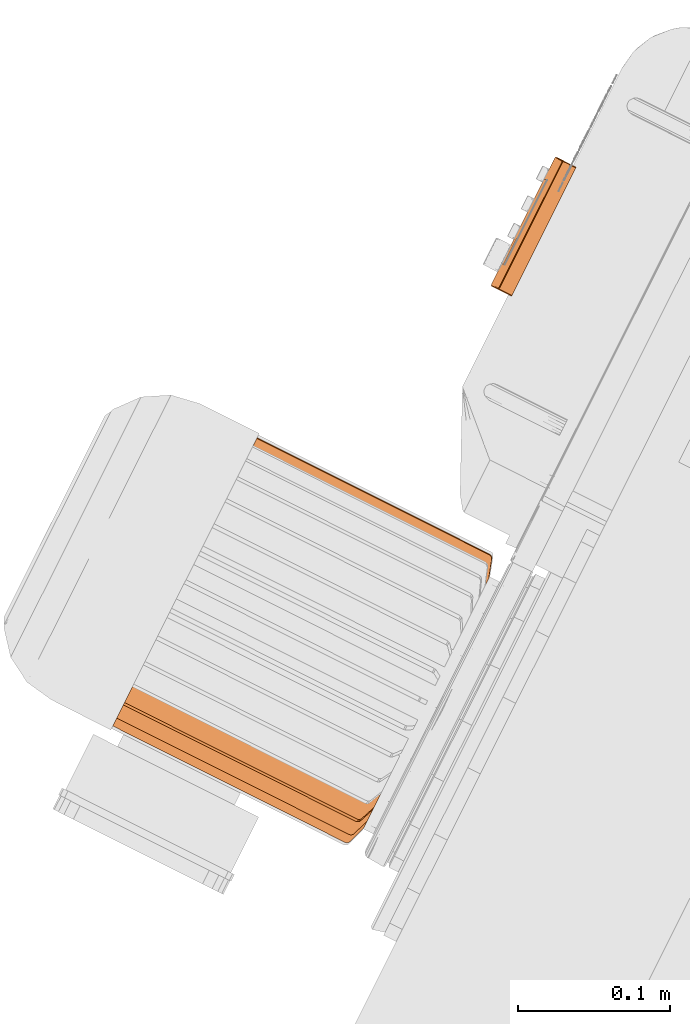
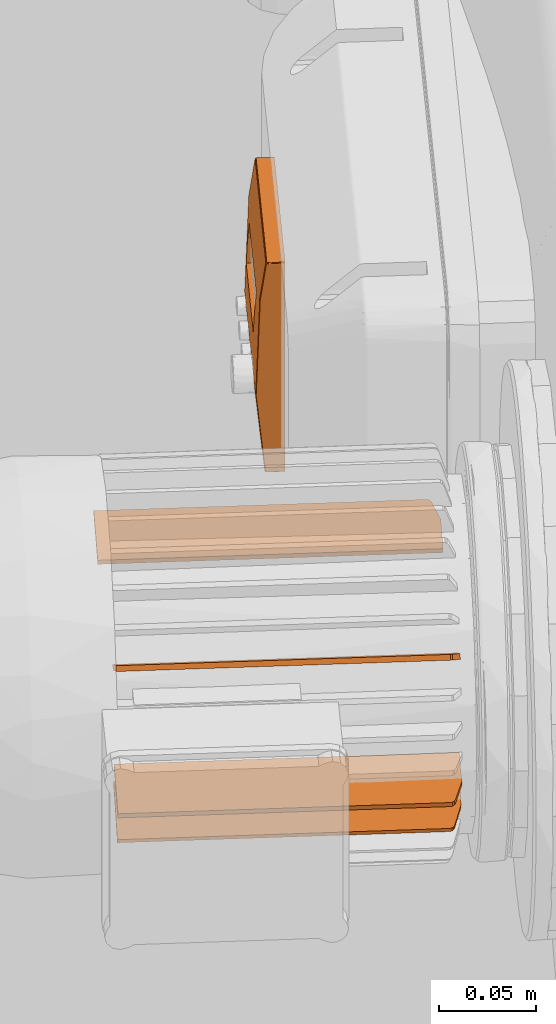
# One storey, part 178 of 206: 5 proxies.
"""IFC2X3 building model written with IfcOpenShell, lengths in metres."""

from ifc_helpers import new_model, si_unit, derived_unit, direction, frame, origin, place, context, subcontext, project, spatial, face_set, faceted_brep, surface_model, source, transform, mapped, material, type_object, type_shapes, element, save


model = new_model("IFC2X3")

# Units and contexts
model_context = context("Model", 3, precision=5.2338327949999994e-05, world=origin(), true_north=direction((0.0, 1.0)))
body_context = subcontext(model_context, "Body", "Model", "MODEL_VIEW")
ifc_project = project(units=[si_unit("LENGTHUNIT", "METRE"), si_unit("AREAUNIT", "SQUARE_METRE"), si_unit("VOLUMEUNIT", "CUBIC_METRE"), si_unit("MASSUNIT", "GRAM", prefix="KILO"), si_unit("PLANEANGLEUNIT", "RADIAN"), derived_unit("THERMALTRANSMITTANCEUNIT", [(si_unit("MASSUNIT", "GRAM", prefix="KILO"), 1), (si_unit("THERMODYNAMICTEMPERATUREUNIT", "KELVIN"), -1), (si_unit("TIMEUNIT", "SECOND"), -3)])], contexts=[model_context])

# Site, building, storey
site_placement = place(None, frame((0.0, 0.0, 0.0), z_axis=(0.0, 0.0, 1.0), x_axis=(0.8939966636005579, -0.4480736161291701, 0.0)))
site = spatial("IfcSite", under=ifc_project, at=site_placement, Name="Default", CompositionType="ELEMENT")
building_placement = place(site_placement, origin())
building = spatial("IfcBuilding", under=site, at=building_placement, CompositionType="ELEMENT")
storey_placement = place(building_placement, origin())
storey = spatial("IfcBuildingStorey", under=building, at=storey_placement, Name="Erdgeschoss", CompositionType="ELEMENT", Elevation=0.0)

# Proxies
ifc_material_1 = material(Name="IfcSurfaceStyle #631137")
building_element_proxy_type_1 = type_object("IfcBuildingElementProxyType", Name="BuildingElementProxy 80:BuildingElementProxy 80", PredefinedType="NOTDEFINED", material=ifc_material_1)
shared_shape_1 = source(origin(), body_context, "Body", "SurfaceModel", [
    surface_model("IfcFaceBasedSurfaceModel", [(21.238712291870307, 4.46367054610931, 0.7497339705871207), (21.238712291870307, 4.463429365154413, 0.7496340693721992), (21.238712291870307, 4.463929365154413, 0.7497680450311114), (21.238712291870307, 4.463063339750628, 0.7492680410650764), (21.238712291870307, 4.462929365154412, 0.7487680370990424), (21.238712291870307, 4.463929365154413, 0.6182670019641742), (21.238712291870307, 4.5569293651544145, 0.6182670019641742), (21.238712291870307, 4.462929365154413, 0.6192670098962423), (21.238712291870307, 4.557929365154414, 0.6192670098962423), (21.238712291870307, 4.557929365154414, 0.7487680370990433), (21.238712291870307, 4.5569293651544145, 0.7497680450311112), (21.238712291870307, 4.4630633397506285, 0.6187670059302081), (21.238712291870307, 4.463429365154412, 0.6184009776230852), (21.238712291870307, 4.463670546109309, 0.6183010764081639), (21.238712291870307, 4.557188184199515, 0.618301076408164), (21.238712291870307, 4.557429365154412, 0.6184009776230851), (21.238712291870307, 4.557795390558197, 0.618767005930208), (21.238712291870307, 4.557795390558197, 0.7492680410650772), (21.238712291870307, 4.557429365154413, 0.7496340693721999), (21.238712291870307, 4.557188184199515, 0.7497339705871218), (21.236091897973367, 4.463929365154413, 0.6182670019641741), (21.236091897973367, 4.5569293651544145, 0.6182670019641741), (21.23347150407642, 4.463929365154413, 0.6182670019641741), (21.23347150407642, 4.5569293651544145, 0.6182670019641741), (21.23347150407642, 4.463670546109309, 0.6183010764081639), (21.23347150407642, 4.463429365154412, 0.6184009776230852), (21.236091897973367, 4.462929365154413, 0.6192670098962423), (21.23347150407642, 4.4630633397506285, 0.6187670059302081), (21.23347150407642, 4.462929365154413, 0.6192670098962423), (21.224399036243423, 4.4629293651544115, 0.6666920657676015), (21.22648959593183, 4.462929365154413, 0.7261436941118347), (21.236091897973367, 4.462929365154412, 0.7487680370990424), (21.23347150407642, 4.462929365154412, 0.7487680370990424), (21.231560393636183, 4.462929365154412, 0.7487756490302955), (21.229649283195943, 4.462929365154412, 0.7487832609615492), (21.229133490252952, 4.462929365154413, 0.6192842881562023), (21.231304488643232, 4.462929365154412, 0.6192756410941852), (21.23347150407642, 4.463063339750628, 0.7492680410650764), (21.23347150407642, 4.463429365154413, 0.7496340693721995), (21.23347150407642, 4.46367054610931, 0.7497339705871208), (21.236091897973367, 4.463929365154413, 0.7497680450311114), (21.23347150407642, 4.463929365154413, 0.7497680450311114), (21.236091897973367, 4.557929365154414, 0.6192670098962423), (21.23347150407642, 4.557795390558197, 0.6187670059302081), (21.23347150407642, 4.557929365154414, 0.6192670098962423), (21.23347150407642, 4.557429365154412, 0.6184009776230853), (21.23347150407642, 4.557188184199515, 0.618301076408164), (21.236091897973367, 4.5569293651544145, 0.7497680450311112), (21.23347150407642, 4.5569293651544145, 0.7497680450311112), (21.23347150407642, 4.557188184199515, 0.7497339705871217), (21.23347150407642, 4.557429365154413, 0.7496340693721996), (21.236091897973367, 4.557929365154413, 0.7487680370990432), (21.23347150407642, 4.557795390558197, 0.7492680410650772), (21.23347150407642, 4.557929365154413, 0.7487680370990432), (21.229650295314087, 4.462962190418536, 0.749037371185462), (21.229651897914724, 4.463175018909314, 0.7494397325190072), (21.229652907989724, 4.463514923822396, 0.7496933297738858), (21.231564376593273, 4.463929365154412, 0.7497756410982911), (21.22965326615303, 4.463929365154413, 0.749783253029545), (21.22965326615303, 4.510429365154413, 0.749783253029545), (21.231564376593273, 4.556929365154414, 0.7497756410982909), (21.22965326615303, 4.5569293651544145, 0.7497832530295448), (21.229652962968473, 4.557312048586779, 0.7497071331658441), (21.22965209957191, 4.5576364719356, 0.7494903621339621), (21.22965080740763, 4.557853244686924, 0.7491659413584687), (21.231560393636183, 4.557929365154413, 0.7487756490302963), (21.229649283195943, 4.557929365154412, 0.7487832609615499), (21.224399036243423, 4.557929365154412, 0.6666920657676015), (21.22648959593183, 4.557929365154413, 0.7261436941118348), (21.231304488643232, 4.557929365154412, 0.6192756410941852), (21.229133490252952, 4.557929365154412, 0.6192842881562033), (21.229132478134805, 4.55789653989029, 0.6190301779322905), (21.229130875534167, 4.557683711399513, 0.6186278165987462), (21.229129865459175, 4.557343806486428, 0.6183742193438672), (21.23130050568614, 4.556929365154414, 0.6182756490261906), (21.22912950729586, 4.556929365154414, 0.6182842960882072), (21.228863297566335, 4.557891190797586, 0.6192408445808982), (21.229042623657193, 4.557909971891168, 0.6191106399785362), (21.229053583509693, 4.5577916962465, 0.6187842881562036), (21.22907418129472, 4.5575694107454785, 0.6185182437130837), (21.228846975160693, 4.557504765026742, 0.6185182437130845), (21.228981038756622, 4.557235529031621, 0.6183445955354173), (21.228658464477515, 4.557362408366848, 0.6185182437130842), (21.228880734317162, 4.5571597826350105, 0.6183445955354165), (21.22853410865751, 4.557161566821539, 0.6185182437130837), (21.2288145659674, 4.557052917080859, 0.6183445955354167), (21.22878512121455, 4.556929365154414, 0.6183469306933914), (21.228483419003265, 4.556929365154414, 0.6185244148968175), (21.228325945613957, 4.557242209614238, 0.6187842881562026), (21.228493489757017, 4.55751280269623, 0.6187842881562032), (21.228747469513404, 4.557704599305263, 0.618784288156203), (21.228261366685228, 4.5569293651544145, 0.6187950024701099), (21.22821518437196, 4.557285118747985, 0.6191106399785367), (21.228405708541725, 4.557592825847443, 0.6191106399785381), (21.228694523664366, 4.557810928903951, 0.6191106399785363), (21.228146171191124, 4.5569293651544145, 0.6191255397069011), (21.22816298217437, 4.557113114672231, 0.6191282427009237), (21.22829405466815, 4.557455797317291, 0.619149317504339), (21.22853849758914, 4.557727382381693, 0.619188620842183), (21.229130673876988, 4.463222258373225, 0.6185771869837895), (21.229053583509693, 4.463067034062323, 0.6187842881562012), (21.22907418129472, 4.463289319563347, 0.6185182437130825), (21.228846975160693, 4.463353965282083, 0.6185182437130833), (21.22912981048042, 4.463546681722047, 0.6183604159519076), (21.228981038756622, 4.463623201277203, 0.618344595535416), (21.22912950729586, 4.463929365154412, 0.6182842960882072), (21.228880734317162, 4.463698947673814, 0.6183445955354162), (21.2288145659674, 4.463805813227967, 0.6183445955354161), (21.228658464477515, 4.463496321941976, 0.6185182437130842), (21.228534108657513, 4.463697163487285, 0.618518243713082), (21.228493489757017, 4.463345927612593, 0.6187842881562), (21.22832594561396, 4.463616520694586, 0.6187842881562), (21.228405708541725, 4.463265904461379, 0.6191106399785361), (21.22821518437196, 4.463573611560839, 0.6191106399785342), (21.228294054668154, 4.463402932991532, 0.6191493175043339), (21.228162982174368, 4.463745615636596, 0.6191282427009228), (21.22913196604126, 4.463005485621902, 0.6189016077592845), (21.229042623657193, 4.462948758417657, 0.6191106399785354), (21.228747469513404, 4.463154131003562, 0.6187842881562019), (21.228694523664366, 4.4630478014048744, 0.6191106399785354), (21.228863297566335, 4.46296753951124, 0.6192408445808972), (21.22853849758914, 4.463131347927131, 0.6191886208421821), (21.228146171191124, 4.463929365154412, 0.6191255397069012), (21.228261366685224, 4.463929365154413, 0.6187950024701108), (21.228483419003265, 4.463929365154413, 0.6185244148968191), (21.22878512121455, 4.463929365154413, 0.6183469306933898), (21.22930839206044, 4.556929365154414, 0.7497233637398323), (21.229475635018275, 4.557020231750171, 0.7497638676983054), (21.229475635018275, 4.557368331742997, 0.7496648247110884), (21.229475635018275, 4.557657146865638, 0.7494467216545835), (21.229475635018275, 4.557847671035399, 0.7491390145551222), (21.22937944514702, 4.557891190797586, 0.7488288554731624), (21.229149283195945, 4.557736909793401, 0.7490961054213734), (21.229055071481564, 4.557727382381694, 0.7488836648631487), (21.228883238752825, 4.557528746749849, 0.7490154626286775), (21.228810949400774, 4.557455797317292, 0.7489249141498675), (21.228709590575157, 4.5571821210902, 0.7490136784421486), (21.228680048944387, 4.557113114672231, 0.7489470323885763), (21.228680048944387, 4.557113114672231, 0.7490167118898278), (21.22870959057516, 4.557081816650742, 0.7490167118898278), (21.228709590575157, 4.557081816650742, 0.7490894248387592), (21.22866326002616, 4.556929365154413, 0.7489498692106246), (21.22870959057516, 4.556960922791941, 0.7491238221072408), (21.228781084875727, 4.556929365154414, 0.7492794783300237), (21.228883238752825, 4.556988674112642, 0.7494233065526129), (21.229005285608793, 4.556929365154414, 0.7495482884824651), (21.229149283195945, 4.557009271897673, 0.7496455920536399), (21.229149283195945, 4.557315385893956, 0.7495584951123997), (21.229149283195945, 4.55756936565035, 0.7493666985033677), (21.228883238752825, 4.557215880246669, 0.7493586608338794), (21.228883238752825, 4.55740439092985, 0.7492163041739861), (21.226217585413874, 4.557891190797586, 0.7261737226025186), (21.2241255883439, 4.557891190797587, 0.6666812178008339), (21.223796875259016, 4.557727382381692, 0.6666681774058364), (21.22589060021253, 4.557727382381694, 0.7262098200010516), (21.223549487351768, 4.557455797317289, 0.6666583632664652), (21.22564451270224, 4.557455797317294, 0.7262369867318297), (21.223416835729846, 4.557113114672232, 0.6666531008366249), (21.225512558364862, 4.557113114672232, 0.7262515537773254), (21.22339982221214, 4.5569293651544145, 0.6666524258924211), (21.22549563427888, 4.556929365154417, 0.7262534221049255), (21.22937944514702, 4.462967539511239, 0.7488288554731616), (21.229475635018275, 4.462961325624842, 0.7489642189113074), (21.229475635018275, 4.463092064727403, 0.7493016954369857), (21.229475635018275, 4.463335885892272, 0.7495691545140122), (21.229475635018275, 4.463659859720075, 0.7497304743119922), (21.22930839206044, 4.463929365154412, 0.7497233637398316), (21.229149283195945, 4.463692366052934, 0.7496162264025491), (21.2290052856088, 4.463929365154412, 0.7495482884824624), (21.228883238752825, 4.463753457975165, 0.7494015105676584), (21.22878108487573, 4.463929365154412, 0.7492794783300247), (21.22870959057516, 4.463835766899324, 0.7491122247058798), (21.22866326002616, 4.463929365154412, 0.7489498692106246), (21.228680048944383, 4.463745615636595, 0.7489470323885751), (21.22870959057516, 4.463814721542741, 0.7491237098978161), (21.228680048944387, 4.463724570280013, 0.7489585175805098), (21.22870959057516, 4.463765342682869, 0.74903322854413), (21.228709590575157, 4.463723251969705, 0.7490561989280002), (21.228810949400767, 4.463402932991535, 0.7489249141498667), (21.22888323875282, 4.463382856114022, 0.7491216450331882), (21.22905507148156, 4.46313134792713, 0.7488836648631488), (21.229149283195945, 4.463193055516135, 0.7492391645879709), (21.229149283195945, 4.463078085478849, 0.7489423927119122), (21.229149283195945, 4.463407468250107, 0.7494743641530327), (21.228883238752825, 4.46354199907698, 0.7492962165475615), (21.22866326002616, 4.510429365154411, 0.7489498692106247), (21.2241255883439, 4.46296753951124, 0.6666812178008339), (21.226217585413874, 4.462967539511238, 0.7261737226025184), (21.225890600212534, 4.4631313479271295, 0.7262098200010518), (21.223796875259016, 4.463131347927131, 0.6666681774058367), (21.22564451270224, 4.463402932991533, 0.7262369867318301), (21.223549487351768, 4.463402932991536, 0.6666583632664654), (21.225512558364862, 4.463745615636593, 0.7262515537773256), (21.223416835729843, 4.463745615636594, 0.666653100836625), (21.225495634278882, 4.463929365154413, 0.7262534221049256), (21.223399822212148, 4.463929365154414, 0.6666524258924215), (21.22912950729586, 4.510429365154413, 0.6182842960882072), (21.228146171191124, 4.510429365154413, 0.6191255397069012), (21.22386832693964, 4.5414293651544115, 0.7074406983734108), (21.223282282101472, 4.541429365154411, 0.6949772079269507), (21.224843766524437, 4.5414293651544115, 0.7198797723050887), (21.224843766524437, 4.510429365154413, 0.7198797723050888), (21.224843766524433, 4.479429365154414, 0.7198797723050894), (21.223868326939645, 4.479429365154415, 0.707440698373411), (21.223282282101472, 4.479429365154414, 0.6949772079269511), (21.23130050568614, 4.463929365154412, 0.6182756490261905), (21.226033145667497, 4.479429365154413, 0.6949662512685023), (21.22608279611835, 4.479429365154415, 0.7074318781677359), (21.22613235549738, 4.479429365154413, 0.7198746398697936), (21.226033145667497, 4.5414293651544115, 0.6949662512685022), (21.22613235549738, 4.5414293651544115, 0.7198746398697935), (21.22608279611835, 4.5414293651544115, 0.7074318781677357), (21.22613235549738, 4.510429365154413, 0.7198746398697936)], [face_set([[[0, 1, 2]], [[2, 1, 3]], [[2, 3, 4]], [[5, 6, 7]], [[7, 6, 8]], [[7, 8, 4]], [[4, 8, 9]], [[4, 9, 2]], [[2, 9, 10]], [[7, 11, 5]], [[5, 11, 12]], [[5, 12, 13]], [[14, 15, 6]], [[6, 15, 16]], [[6, 16, 8]], [[9, 17, 10]], [[10, 17, 18]], [[10, 18, 19]], [[5, 20, 6]], [[6, 20, 21]], [[20, 22, 21]], [[21, 22, 23]], [[5, 13, 20]], [[20, 13, 24]], [[20, 24, 22]], [[24, 13, 25]], [[25, 13, 12]], [[25, 12, 11]], [[7, 26, 11]], [[11, 26, 27]], [[11, 27, 25]], [[26, 28, 27]], [[26, 7, 29]], [[29, 7, 4]], [[29, 4, 30]], [[30, 4, 31]], [[30, 31, 32]], [[32, 33, 30]], [[30, 33, 34]], [[35, 36, 29]], [[29, 36, 28]], [[29, 28, 26]], [[4, 3, 31]], [[31, 3, 37]], [[31, 37, 32]], [[3, 1, 37]], [[37, 1, 38]], [[38, 1, 39]], [[39, 1, 0]], [[39, 0, 40]], [[40, 0, 2]], [[40, 41, 39]], [[8, 16, 42]], [[42, 16, 43]], [[42, 43, 44]], [[16, 15, 43]], [[43, 15, 45]], [[45, 15, 46]], [[46, 15, 14]], [[46, 14, 21]], [[21, 14, 6]], [[21, 23, 46]], [[10, 47, 2]], [[2, 47, 40]], [[47, 48, 40]], [[40, 48, 41]], [[10, 19, 47]], [[47, 19, 49]], [[47, 49, 48]], [[49, 19, 50]], [[50, 19, 18]], [[50, 18, 17]], [[9, 51, 17]], [[17, 51, 52]], [[17, 52, 50]], [[51, 53, 52]], [[32, 37, 33]], [[33, 37, 54]], [[33, 54, 34]], [[54, 37, 55]], [[55, 37, 38]], [[55, 38, 56]], [[56, 38, 39]], [[56, 39, 57]], [[57, 39, 41]], [[57, 58, 56]], [[57, 41, 59]], [[59, 41, 48]], [[59, 48, 60]], [[60, 61, 59]], [[59, 58, 57]], [[48, 49, 60]], [[60, 49, 62]], [[60, 62, 61]], [[49, 50, 62]], [[62, 50, 63]], [[50, 52, 63]], [[63, 52, 64]], [[53, 65, 52]], [[52, 65, 64]], [[65, 66, 64]], [[8, 67, 9]], [[9, 67, 68]], [[9, 68, 51]], [[51, 68, 53]], [[8, 42, 67]], [[67, 42, 44]], [[67, 44, 69]], [[69, 70, 67]], [[66, 65, 68]], [[68, 65, 53]], [[44, 43, 69]], [[69, 43, 71]], [[69, 71, 70]], [[71, 43, 72]], [[72, 43, 45]], [[72, 45, 73]], [[73, 45, 46]], [[73, 46, 74]], [[74, 46, 23]], [[74, 75, 73]], [[76, 70, 77]], [[77, 70, 71]], [[77, 71, 78]], [[78, 71, 72]], [[78, 72, 79]], [[79, 72, 73]], [[79, 73, 80]], [[80, 73, 81]], [[80, 81, 82]], [[82, 81, 83]], [[82, 83, 84]], [[84, 83, 85]], [[84, 85, 86]], [[86, 85, 75]], [[73, 75, 81]], [[81, 75, 83]], [[86, 87, 84]], [[84, 87, 88]], [[84, 88, 82]], [[82, 88, 89]], [[82, 89, 80]], [[80, 89, 90]], [[80, 90, 79]], [[79, 90, 78]], [[87, 91, 88]], [[88, 91, 92]], [[88, 92, 89]], [[89, 92, 93]], [[89, 93, 90]], [[90, 93, 94]], [[90, 94, 78]], [[78, 94, 77]], [[95, 96, 91]], [[91, 96, 92]], [[96, 97, 92]], [[92, 97, 93]], [[97, 98, 93]], [[93, 98, 94]], [[98, 76, 94]], [[94, 76, 77]], [[83, 75, 85]], [[99, 100, 101]], [[101, 100, 102]], [[101, 102, 103]], [[103, 102, 104]], [[103, 104, 105]], [[105, 104, 106]], [[105, 106, 107]], [[107, 106, 108]], [[107, 108, 109]], [[109, 108, 110]], [[109, 110, 111]], [[111, 110, 112]], [[111, 112, 113]], [[113, 112, 114]], [[113, 114, 115]], [[103, 99, 101]], [[99, 116, 100]], [[100, 116, 117]], [[100, 117, 118]], [[118, 117, 119]], [[118, 119, 110]], [[110, 119, 112]], [[116, 35, 117]], [[117, 35, 120]], [[117, 120, 119]], [[119, 120, 121]], [[119, 121, 112]], [[112, 121, 114]], [[122, 123, 115]], [[115, 123, 111]], [[115, 111, 113]], [[123, 124, 111]], [[111, 124, 109]], [[124, 125, 109]], [[109, 125, 107]], [[125, 105, 107]], [[100, 118, 102]], [[102, 118, 108]], [[102, 108, 106]], [[104, 102, 106]], [[110, 108, 118]], [[126, 61, 127]], [[127, 61, 62]], [[127, 62, 128]], [[128, 62, 63]], [[128, 63, 129]], [[129, 63, 64]], [[129, 64, 130]], [[130, 64, 66]], [[130, 66, 131]], [[130, 131, 132]], [[132, 131, 133]], [[132, 133, 134]], [[134, 133, 135]], [[134, 135, 136]], [[136, 135, 137]], [[136, 138, 139]], [[140, 137, 141]], [[140, 141, 142]], [[142, 141, 143]], [[142, 143, 144]], [[144, 143, 145]], [[144, 145, 146]], [[146, 145, 126]], [[146, 126, 127]], [[146, 127, 147]], [[147, 127, 128]], [[147, 128, 148]], [[148, 128, 129]], [[148, 129, 132]], [[132, 129, 130]], [[144, 146, 149]], [[149, 146, 147]], [[149, 147, 150]], [[150, 147, 148]], [[150, 148, 134]], [[134, 148, 132]], [[142, 144, 140]], [[140, 144, 149]], [[140, 149, 136]], [[136, 149, 150]], [[136, 150, 134]], [[131, 66, 151]], [[151, 66, 68]], [[151, 68, 152]], [[152, 68, 67]], [[152, 67, 76]], [[76, 67, 70]], [[76, 98, 152]], [[152, 98, 153]], [[152, 153, 151]], [[151, 153, 154]], [[151, 154, 131]], [[131, 154, 133]], [[98, 97, 153]], [[153, 97, 155]], [[153, 155, 154]], [[154, 155, 156]], [[154, 156, 133]], [[133, 156, 135]], [[97, 96, 155]], [[155, 96, 157]], [[155, 157, 156]], [[156, 157, 158]], [[156, 158, 135]], [[135, 158, 137]], [[96, 95, 157]], [[157, 95, 159]], [[157, 159, 158]], [[158, 159, 160]], [[158, 160, 137]], [[137, 160, 141]], [[161, 34, 162]], [[162, 34, 54]], [[162, 54, 163]], [[163, 54, 55]], [[163, 55, 164]], [[164, 55, 56]], [[164, 56, 165]], [[165, 56, 58]], [[165, 58, 166]], [[165, 166, 167]], [[167, 166, 168]], [[167, 168, 169]], [[169, 168, 170]], [[169, 170, 171]], [[171, 170, 172]], [[171, 172, 173]], [[174, 175, 176]], [[177, 173, 178]], [[177, 178, 179]], [[179, 178, 180]], [[179, 180, 181]], [[181, 180, 182]], [[181, 182, 162]], [[162, 182, 161]], [[180, 161, 182]], [[162, 163, 181]], [[181, 163, 183]], [[181, 183, 184]], [[184, 183, 169]], [[184, 169, 171]], [[177, 179, 184]], [[184, 179, 181]], [[163, 164, 183]], [[183, 164, 167]], [[183, 167, 169]], [[177, 184, 171]], [[165, 167, 164]], [[141, 185, 143]], [[143, 185, 170]], [[143, 170, 168]], [[185, 172, 170]], [[143, 168, 145]], [[145, 168, 166]], [[145, 166, 126]], [[126, 166, 59]], [[126, 59, 61]], [[166, 58, 59]], [[120, 35, 186]], [[186, 35, 29]], [[186, 29, 187]], [[187, 29, 30]], [[187, 30, 161]], [[161, 30, 34]], [[161, 180, 187]], [[187, 180, 188]], [[187, 188, 186]], [[186, 188, 189]], [[186, 189, 120]], [[120, 189, 121]], [[180, 178, 188]], [[188, 178, 190]], [[188, 190, 189]], [[189, 190, 191]], [[189, 191, 121]], [[121, 191, 114]], [[178, 173, 190]], [[190, 173, 192]], [[190, 192, 191]], [[191, 192, 193]], [[191, 193, 114]], [[114, 193, 115]], [[173, 172, 192]], [[192, 172, 194]], [[192, 194, 193]], [[193, 194, 195]], [[193, 195, 115]], [[115, 195, 122]], [[75, 196, 86]], [[86, 196, 125]], [[86, 125, 87]], [[87, 125, 124]], [[87, 124, 91]], [[91, 124, 123]], [[91, 123, 197]], [[197, 123, 122]], [[196, 105, 125]], [[197, 95, 91]], [[198, 160, 199]], [[199, 160, 159]], [[199, 159, 195]], [[195, 159, 197]], [[195, 197, 122]], [[198, 200, 160]], [[160, 200, 185]], [[160, 185, 141]], [[200, 201, 185]], [[185, 201, 202]], [[185, 202, 194]], [[194, 202, 203]], [[194, 203, 204]], [[194, 204, 195]], [[195, 204, 199]], [[159, 95, 197]], [[194, 172, 185]], [[74, 23, 196]], [[196, 23, 22]], [[196, 22, 205]], [[205, 105, 196]], [[196, 75, 74]], [[22, 24, 205]], [[205, 24, 103]], [[205, 103, 105]], [[24, 25, 103]], [[103, 25, 99]], [[25, 27, 99]], [[99, 27, 116]], [[28, 36, 27]], [[27, 36, 116]], [[36, 35, 116]], [[204, 203, 206]], [[206, 203, 207]], [[203, 202, 207]], [[207, 202, 208]], [[204, 206, 199]], [[199, 206, 209]], [[210, 200, 211]], [[211, 200, 198]], [[211, 198, 209]], [[209, 198, 199]], [[208, 212, 207]], [[207, 212, 206]], [[210, 211, 212]], [[212, 211, 209]], [[212, 209, 206]], [[208, 202, 212]], [[212, 202, 201]], [[212, 201, 210]], [[210, 201, 200]]])]),
])
type_shapes(building_element_proxy_type_1, [shared_shape_1])
proxy_1_placement = place(storey_placement, origin())
element("IfcBuildingElementProxy", 1, at=proxy_1_placement, inside=storey, type_object=building_element_proxy_type_1, material=ifc_material_1, Name="BuildingElementProxy 80", context=body_context, shape_type="MappedRepresentation", body=[
    mapped(shared_shape_1, transform((0.0, 0.0, 0.0), scale=1.0)),
])
ifc_material_2 = material(Name="IfcSurfaceStyle #623543")
building_element_proxy_type_2 = type_object("IfcBuildingElementProxyType", Name="BuildingElementProxy 81:BuildingElementProxy 81", PredefinedType="NOTDEFINED", material=ifc_material_2)
shared_shape_2 = source(origin(), body_context, "Body", "Brep", [
    faceted_brep([(21.308483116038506, 4.131437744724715, 0.6606557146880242), (21.308483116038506, 4.112072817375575, 0.6526344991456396), (21.308483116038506, 4.13258579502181, 0.6578840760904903), (21.308483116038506, 4.11322086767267, 0.6498628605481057), (21.304532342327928, 4.100689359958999, 0.6479193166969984), (21.301675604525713, 4.098763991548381, 0.647121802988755), (21.130911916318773, 4.131437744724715, 0.6606557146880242), (21.130911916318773, 4.098763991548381, 0.647121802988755), (21.302899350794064, 4.099005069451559, 0.6472216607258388), (21.303910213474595, 4.0996863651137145, 0.6475038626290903), (21.130911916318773, 4.13258579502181, 0.6578840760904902), (21.130911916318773, 4.099912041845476, 0.6443501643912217), (21.301675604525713, 4.099912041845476, 0.6443501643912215), (21.302899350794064, 4.100153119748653, 0.6444500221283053), (21.303910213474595, 4.100834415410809, 0.6447322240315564), (21.304532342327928, 4.1018374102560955, 0.6451476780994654)], [[[0, 1, 2]], [[2, 1, 3]], [[4, 1, 5]], [[5, 1, 0]], [[5, 0, 6]], [[6, 7, 5]], [[5, 8, 4]], [[4, 8, 9]], [[0, 2, 6]], [[6, 2, 10]], [[7, 6, 11]], [[11, 6, 10]], [[7, 11, 5]], [[5, 11, 12]], [[12, 13, 5]], [[5, 13, 8]], [[13, 14, 8]], [[8, 14, 9]], [[14, 15, 9]], [[9, 15, 4]], [[3, 1, 15]], [[15, 1, 4]], [[10, 2, 12]], [[12, 2, 3]], [[12, 3, 15]], [[14, 13, 15]], [[15, 13, 12]], [[12, 11, 10]]]),
])
type_shapes(building_element_proxy_type_2, [shared_shape_2])
proxy_2_placement = place(storey_placement, origin())
element("IfcBuildingElementProxy", 2, at=proxy_2_placement, inside=storey, type_object=building_element_proxy_type_2, material=ifc_material_2, Name="BuildingElementProxy 81", context=body_context, shape_type="MappedRepresentation", body=[
    mapped(shared_shape_2, transform((0.0, 0.0, 0.0), scale=1.0)),
])
building_element_proxy_type_3 = type_object("IfcBuildingElementProxyType", Name="BuildingElementProxy 83:BuildingElementProxy 83", PredefinedType="NOTDEFINED", material=ifc_material_2)
shared_shape_3 = source(origin(), body_context, "Body", "Brep", [
    faceted_brep([(21.308483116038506, 4.270321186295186, 0.6996656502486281), (21.308483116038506, 4.290878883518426, 0.7037548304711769), (21.308483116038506, 4.269735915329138, 0.7026080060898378), (21.308483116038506, 4.290293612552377, 0.7066971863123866), (21.304532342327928, 4.302963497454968, 0.7061586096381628), (21.301675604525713, 4.305007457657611, 0.7065651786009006), (21.130911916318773, 4.270321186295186, 0.6996656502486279), (21.130911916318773, 4.305007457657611, 0.7065651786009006), (21.302899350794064, 4.30475153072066, 0.7065142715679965), (21.303910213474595, 4.304028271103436, 0.7063704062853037), (21.130911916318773, 4.269735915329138, 0.7026080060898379), (21.130911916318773, 4.304422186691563, 0.7095075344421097), (21.301675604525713, 4.304422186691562, 0.7095075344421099), (21.302899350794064, 4.304166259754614, 0.7094566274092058), (21.303910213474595, 4.303443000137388, 0.7093127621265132), (21.304532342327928, 4.30237822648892, 0.7091009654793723)], [[[0, 1, 2]], [[2, 1, 3]], [[4, 1, 5]], [[5, 1, 0]], [[5, 0, 6]], [[6, 7, 5]], [[5, 8, 4]], [[4, 8, 9]], [[0, 2, 6]], [[6, 2, 10]], [[7, 6, 11]], [[11, 6, 10]], [[7, 11, 5]], [[5, 11, 12]], [[12, 13, 5]], [[5, 13, 8]], [[13, 14, 8]], [[8, 14, 9]], [[14, 15, 9]], [[9, 15, 4]], [[3, 1, 15]], [[15, 1, 4]], [[10, 2, 12]], [[12, 2, 3]], [[12, 3, 15]], [[14, 13, 15]], [[15, 13, 12]], [[12, 11, 10]]]),
])
type_shapes(building_element_proxy_type_3, [shared_shape_3])
proxy_3_placement = place(storey_placement, origin())
element("IfcBuildingElementProxy", 3, at=proxy_3_placement, inside=storey, type_object=building_element_proxy_type_3, material=ifc_material_2, Name="BuildingElementProxy 83", context=body_context, shape_type="MappedRepresentation", body=[
    mapped(shared_shape_3, transform((0.0, 0.0, 0.0), scale=1.0)),
])
building_element_proxy_type_4 = type_object("IfcBuildingElementProxyType", Name="BuildingElementProxy 84:BuildingElementProxy 84", PredefinedType="NOTDEFINED", material=ifc_material_2)
shared_shape_4 = source(origin(), body_context, "Body", "Brep", [
    faceted_brep([(21.308483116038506, 4.127595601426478, 0.6743345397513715), (21.308483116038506, 4.1070379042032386, 0.6702453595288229), (21.308483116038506, 4.128180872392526, 0.671392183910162), (21.308483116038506, 4.107623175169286, 0.6673030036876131), (21.304532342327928, 4.094953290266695, 0.6678415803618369), (21.301675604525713, 4.092909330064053, 0.6674350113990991), (21.130911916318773, 4.127595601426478, 0.6743345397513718), (21.130911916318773, 4.092909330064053, 0.6674350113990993), (21.302899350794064, 4.0931652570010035, 0.6674859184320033), (21.303910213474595, 4.093888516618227, 0.6676297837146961), (21.130911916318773, 4.128180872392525, 0.6713921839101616), (21.130911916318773, 4.093494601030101, 0.6644926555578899), (21.301675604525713, 4.0934946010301, 0.6644926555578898), (21.302899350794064, 4.0937505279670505, 0.6645435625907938), (21.303910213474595, 4.094473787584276, 0.6646874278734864), (21.304532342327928, 4.095538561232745, 0.6648992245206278)], [[[0, 1, 2]], [[2, 1, 3]], [[4, 1, 5]], [[5, 1, 0]], [[5, 0, 6]], [[6, 7, 5]], [[5, 8, 4]], [[4, 8, 9]], [[0, 2, 6]], [[6, 2, 10]], [[7, 6, 11]], [[11, 6, 10]], [[7, 11, 5]], [[5, 11, 12]], [[12, 13, 5]], [[5, 13, 8]], [[13, 14, 8]], [[8, 14, 9]], [[14, 15, 9]], [[9, 15, 4]], [[3, 1, 15]], [[15, 1, 4]], [[10, 2, 12]], [[12, 2, 3]], [[12, 3, 15]], [[14, 13, 15]], [[15, 13, 12]], [[12, 11, 10]]]),
])
type_shapes(building_element_proxy_type_4, [shared_shape_4])
proxy_4_placement = place(storey_placement, origin())
element("IfcBuildingElementProxy", 4, at=proxy_4_placement, inside=storey, type_object=building_element_proxy_type_4, material=ifc_material_2, Name="BuildingElementProxy 84", context=body_context, shape_type="MappedRepresentation", body=[
    mapped(shared_shape_4, transform((0.0, 0.0, 0.0), scale=1.0)),
])
building_element_proxy_type_5 = type_object("IfcBuildingElementProxyType", Name="BuildingElementProxy 86:BuildingElementProxy 86", PredefinedType="NOTDEFINED", material=ifc_material_2)
shared_shape_5 = source(origin(), body_context, "Body", "Brep", [
    faceted_brep([(21.308483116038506, 4.139541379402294, 0.7285053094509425), (21.308483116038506, 4.122113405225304, 0.7401503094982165), (21.308483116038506, 4.137874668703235, 0.7260109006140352), (21.308483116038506, 4.120446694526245, 0.7376559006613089), (21.304532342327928, 4.111868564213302, 0.7469956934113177), (21.301675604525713, 4.110135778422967, 0.7481535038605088), (21.130911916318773, 4.139541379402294, 0.728505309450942), (21.130911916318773, 4.110135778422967, 0.7481535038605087), (21.302899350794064, 4.110352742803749, 0.7480085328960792), (21.303910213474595, 4.110965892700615, 0.747598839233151), (21.130911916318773, 4.137874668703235, 0.7260109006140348), (21.130911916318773, 4.108469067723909, 0.7456590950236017), (21.301675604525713, 4.108469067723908, 0.7456590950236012), (21.302899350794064, 4.108686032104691, 0.7455141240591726), (21.303910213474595, 4.109299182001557, 0.745104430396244), (21.304532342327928, 4.110201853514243, 0.7445012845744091)], [[[0, 1, 2]], [[2, 1, 3]], [[4, 1, 5]], [[5, 1, 0]], [[5, 0, 6]], [[6, 7, 5]], [[5, 8, 4]], [[4, 8, 9]], [[0, 2, 6]], [[6, 2, 10]], [[7, 6, 11]], [[11, 6, 10]], [[7, 11, 5]], [[5, 11, 12]], [[12, 13, 5]], [[5, 13, 8]], [[13, 14, 8]], [[8, 14, 9]], [[14, 15, 9]], [[9, 15, 4]], [[3, 1, 15]], [[15, 1, 4]], [[10, 2, 12]], [[12, 2, 3]], [[12, 3, 15]], [[14, 13, 15]], [[15, 13, 12]], [[12, 11, 10]]]),
])
type_shapes(building_element_proxy_type_5, [shared_shape_5])
proxy_5_placement = place(storey_placement, origin())
element("IfcBuildingElementProxy", 5, at=proxy_5_placement, inside=storey, type_object=building_element_proxy_type_5, material=ifc_material_2, Name="BuildingElementProxy 86", context=body_context, shape_type="MappedRepresentation", body=[
    mapped(shared_shape_5, transform((0.0, 0.0, 0.0), scale=1.0)),
])

save(model, "model.ifc")
